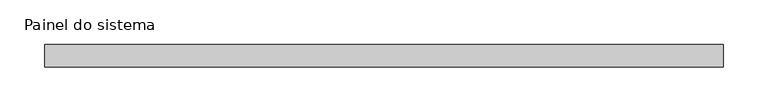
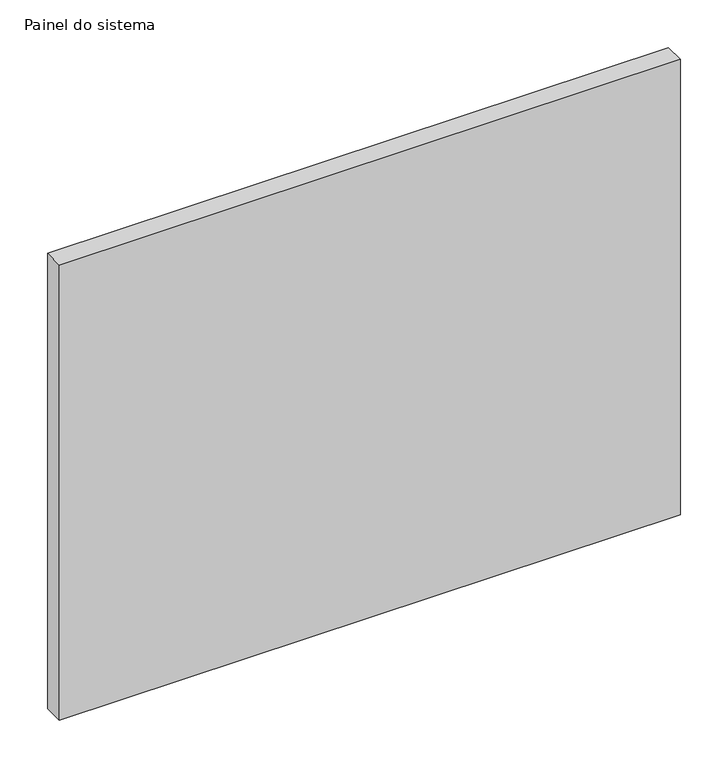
"""IFC4 building model written with IfcOpenShell, lengths in millimetres: plate geometry, Painel do sistema : Envidraçado."""

from ifc_helpers import new_model, si_unit, origin, origin_with_axes, place, context, project, spatial, polyline, outline, extrude, source, transform, mapped, element, save


def painel_do_sistema_d716b599(model_context):
    return source(origin(), model_context, "Body", "SweptSolid", [
        extrude(outline(polyline([(377.5, 24.5), (-377.5, 24.5), (-377.5, 49.5), (377.5, 49.5), (377.5, 24.5)])), origin_with_axes(), (0.0, 0.0, 1.0), 585.0),
    ])


if __name__ == "__main__":
    model = new_model("IFC4")
    model_context = context("Model", 3, world=origin())
    ifc_project = project(units=[si_unit("LENGTHUNIT", "METRE", prefix="MILLI")], contexts=[model_context])
    site = spatial("IfcSite", under=ifc_project)
    building = spatial("IfcBuilding", under=site)
    placement = place(None, origin())
    painel_do_sistema_shape = painel_do_sistema_d716b599(model_context)
    element("IfcPlate", 1, ObjectType="Painel do sistema : Envidraçado", at=placement, inside=building, context=model_context, shape_type="MappedRepresentation", body=[
        mapped(painel_do_sistema_shape, transform((0.0, 0.0, 0.0), x_axis=(1.0, 0.0, 0.0), y_axis=(0.0, 1.0, 0.0), z_axis=(0.0, 0.0, 1.0))),
    ])
    save(model, "model.ifc")
